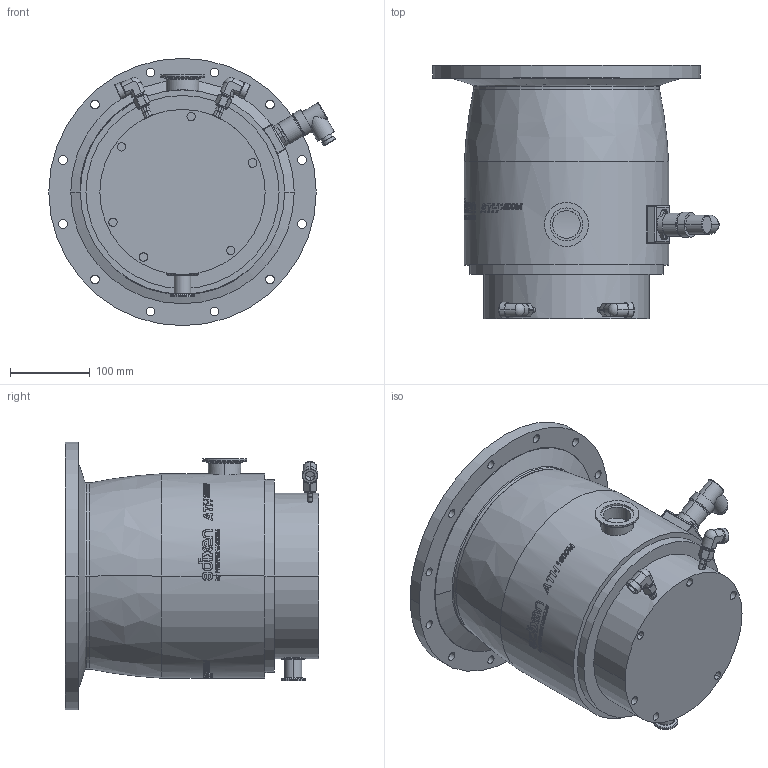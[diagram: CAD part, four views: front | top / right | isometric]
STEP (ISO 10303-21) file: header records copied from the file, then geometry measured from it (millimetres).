
FILE_DESCRIPTION((''),'2;1');
FILE_NAME('ENV-ATH1600M-P6662100','2012-06-08T',('RCRIADO'),(''),'PRO/ENGINEER BY PARAMETRIC TECHNOLOGY CORPORATION, 2010230','PRO/ENGINEER BY PARAMETRIC TECHNOLOGY CORPORATION, 2010230','');
FILE_SCHEMA(('CONFIG_CONTROL_DESIGN'));
Products named in the file (1): ENV-ATH1600M-P6662100
Bounding box: 358.82 x 317.22 x 335 mm (x, y, z)
Volume: 15302594.6 mm3; surface area: 481694.3 mm2
Topology: 1 solids, 4 shells, 1682 faces, 4545 edges, 2985 vertices
Faces by surface type: bspline 852, plane 459, cylinder 295, cone 38, torus 22, sphere 16
Entity records: 73588 total; most frequent: CARTESIAN_POINT 36101, ORIENTED_EDGE 9086, DIRECTION 5483, EDGE_CURVE 4543, VERTEX_POINT 2985, VECTOR 1951, LINE 1951, EDGE_LOOP 1860
